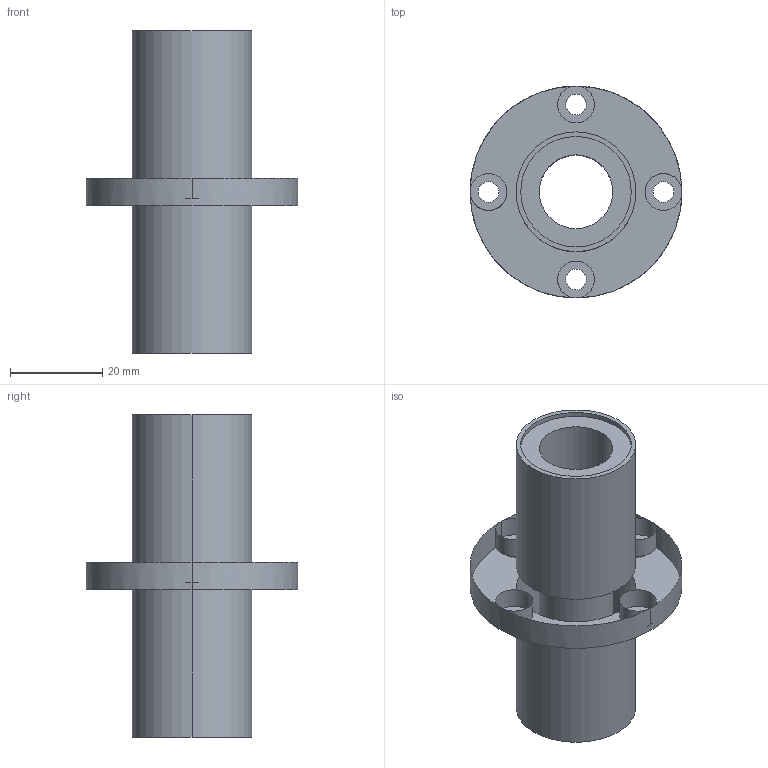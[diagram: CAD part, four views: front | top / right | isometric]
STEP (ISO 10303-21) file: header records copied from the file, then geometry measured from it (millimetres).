
FILE_DESCRIPTION((''),'2;1');
FILE_NAME('C:\Documents and Settings\ｿﾀﾀ蠑ｷ1\ｹﾙﾅﾁ ﾈｭｸ饅\ｺﾎﾇｰﾆﾄﾀﾏ\ﾁｦﾇｰ\LMEFM__UU\LMEFM16UU.stp','2005-06-16T13:28:47',('ｿﾀﾀ蠑ｷ1'),(''),'Autodesk Inventor 9','Autodesk Inventor 9','');
FILE_SCHEMA(('AUTOMOTIVE_DESIGN { 1 0 10303 214 1 1 1 1 }'));
Length unit declared in the file: millimetre
Products named in the file (1): LMEFM__UU
Bounding box: 46 x 46 x 70 mm (x, y, z)
Volume: 28387.4 mm3; surface area: 12990.7 mm2
Topology: 1 solids, 1 shells, 40 faces, 94 edges, 58 vertices
Faces by surface type: bspline 22, cylinder 12, plane 6
Entity records: 1463 total; most frequent: CARTESIAN_POINT 513, DIRECTION 196, ORIENTED_EDGE 192, EDGE_CURVE 96, AXIS2_PLACEMENT_3D 81, CIRCLE 62, VERTEX_POINT 58, EDGE_LOOP 54
